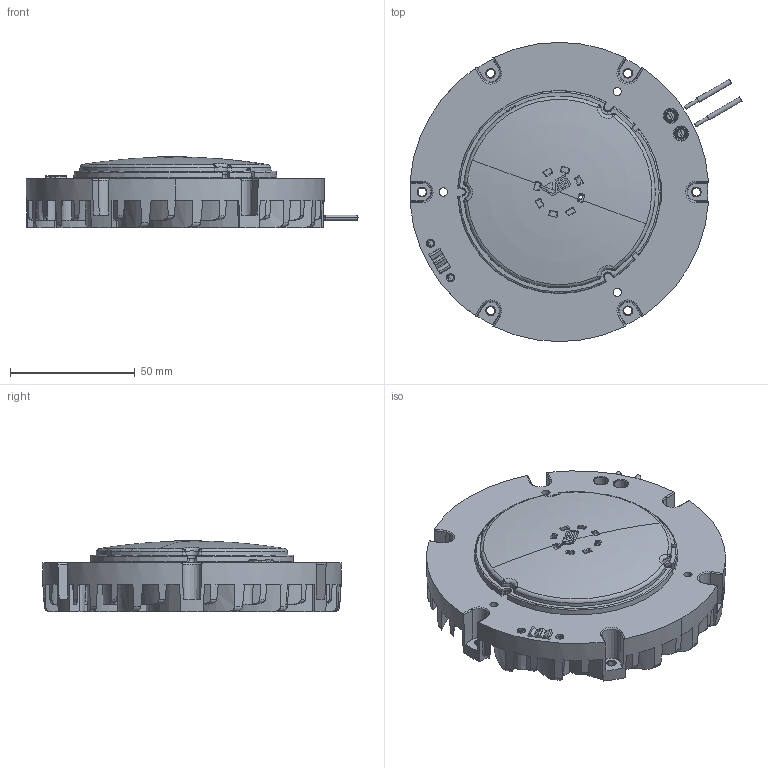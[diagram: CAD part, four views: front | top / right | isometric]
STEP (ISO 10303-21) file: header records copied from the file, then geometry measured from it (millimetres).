
FILE_DESCRIPTION(('Creo Elements/Direct Modeling STEP Export'),'2;1');
FILE_NAME('READYLINE_C08_HEAT-SINK.stp','2015-01-16T15:05:14',(''),(''),'Creo Elements/Direct Modeling STEP processor for AP214 (Solid Model)','Creo Elements/Direct Modeling 18.1D 22-Jun-2013 (C) Parametric Technology GmbH','');
FILE_SCHEMA(('AUTOMOTIVE_DESIGN { 1 0 10303 214 1 1 1 1 }'));
Length unit declared in the file: millimetre
Products named in the file (8): cavo; cassa; modulo; DEVICE; cavo_3.1; cavo.1; cavo_1.1; READYLINE_C08
Assembly tree (7 placements, depth 2):
  READYLINE_C08
    cavo_1.1
    cavo.1
    cavo_3.1
    DEVICE
    modulo
    cassa
    cavo
Bounding box: 133.14 x 120 x 28.5 mm (x, y, z)
Volume: 129528.3 mm3; surface area: 122506.5 mm2
Topology: 7 solids, 9 shells, 4071 faces, 11583 edges, 7599 vertices
Faces by surface type: plane 2033, cone 949, cylinder 562, bspline 194, torus 156, extrusion 132, sphere 45
Entity records: 178046 total; most frequent: CARTESIAN_POINT 64880, ORIENTED_EDGE 23080, DIRECTION 15219, EDGE_CURVE 11540, VERTEX_POINT 7599, AXIS2_PLACEMENT_3D 5490, EDGE_LOOP 4247, VECTOR 4239
